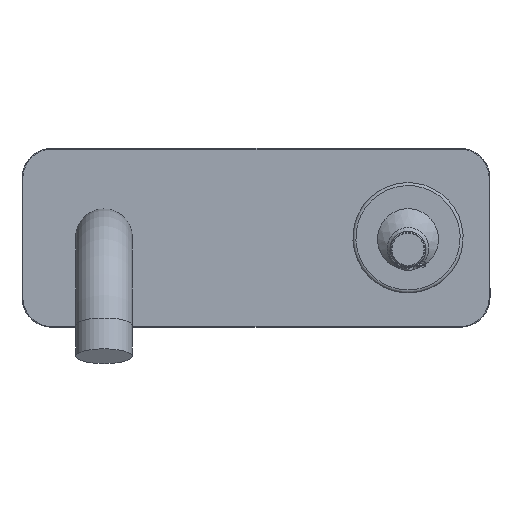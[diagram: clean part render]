
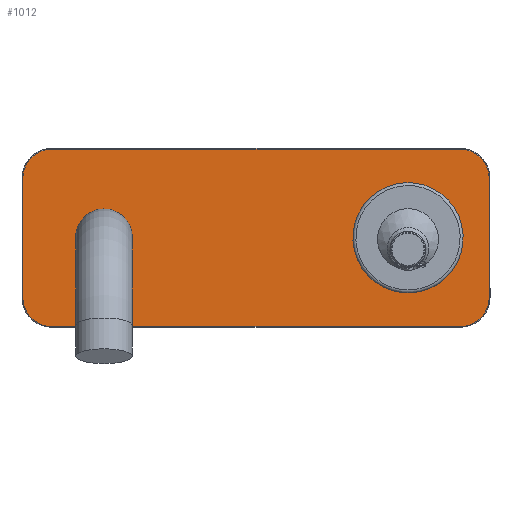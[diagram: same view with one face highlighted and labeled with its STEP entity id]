
A CAD part, top view. The second image highlights one B-rep face of the part: STEP entity #1012.
In plain terms, the highlighted planar face has unit normal (0, 0, 1).
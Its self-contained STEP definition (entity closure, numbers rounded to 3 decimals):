
#15=FACE_BOUND('',#297,.T.);
#16=FACE_BOUND('',#298,.T.);
#35=LINE('',#1671,#70);
#37=LINE('',#1683,#72);
#39=LINE('',#1695,#74);
#41=LINE('',#1704,#76);
#70=VECTOR('',#1197,10.);
#72=VECTOR('',#1211,10.);
#74=VECTOR('',#1225,10.);
#76=VECTOR('',#1237,10.);
#127=PLANE('',#1135);
#231=FACE_OUTER_BOUND('',#296,.T.);
#296=EDGE_LOOP('',(#849,#850,#851,#852,#853,#854,#855,#856));
#297=EDGE_LOOP('',(#857));
#298=EDGE_LOOP('',(#858,#859));
#305=CIRCLE('',#1041,9.5);
#314=CIRCLE('',#1054,9.75);
#320=CIRCLE('',#1062,9.75);
#324=CIRCLE('',#1068,9.75);
#328=CIRCLE('',#1074,9.75);
#360=CIRCLE('',#1133,18.5);
#361=CIRCLE('',#1134,18.5);
#367=VERTEX_POINT('',#1629);
#379=VERTEX_POINT('',#1659);
#380=VERTEX_POINT('',#1661);
#382=VERTEX_POINT('',#1667);
#384=VERTEX_POINT('',#1673);
#386=VERTEX_POINT('',#1679);
#388=VERTEX_POINT('',#1685);
#390=VERTEX_POINT('',#1691);
#392=VERTEX_POINT('',#1697);
#441=VERTEX_POINT('',#2800);
#442=VERTEX_POINT('',#2801);
#452=EDGE_CURVE('',#367,#367,#305,.T.);
#466=EDGE_CURVE('',#379,#380,#314,.T.);
#471=EDGE_CURVE('',#380,#382,#35,.T.);
#474=EDGE_CURVE('',#382,#384,#320,.T.);
#477=EDGE_CURVE('',#384,#386,#37,.T.);
#480=EDGE_CURVE('',#386,#388,#324,.T.);
#483=EDGE_CURVE('',#388,#390,#39,.T.);
#486=EDGE_CURVE('',#390,#392,#328,.T.);
#488=EDGE_CURVE('',#392,#379,#41,.T.);
#579=EDGE_CURVE('',#441,#442,#360,.T.);
#580=EDGE_CURVE('',#442,#441,#361,.T.);
#849=ORIENTED_EDGE('',*,*,#466,.F.);
#850=ORIENTED_EDGE('',*,*,#488,.F.);
#851=ORIENTED_EDGE('',*,*,#486,.F.);
#852=ORIENTED_EDGE('',*,*,#483,.F.);
#853=ORIENTED_EDGE('',*,*,#480,.F.);
#854=ORIENTED_EDGE('',*,*,#477,.F.);
#855=ORIENTED_EDGE('',*,*,#474,.F.);
#856=ORIENTED_EDGE('',*,*,#471,.F.);
#857=ORIENTED_EDGE('',*,*,#452,.T.);
#858=ORIENTED_EDGE('',*,*,#579,.T.);
#859=ORIENTED_EDGE('',*,*,#580,.T.);
#1012=ADVANCED_FACE('',(#231,#15,#16),#127,.T.);
#1041=AXIS2_PLACEMENT_3D('',#1631,#1155,#1156);
#1054=AXIS2_PLACEMENT_3D('',#1662,#1186,#1187);
#1062=AXIS2_PLACEMENT_3D('',#1677,#1204,#1205);
#1068=AXIS2_PLACEMENT_3D('',#1689,#1218,#1219);
#1074=AXIS2_PLACEMENT_3D('',#1701,#1232,#1233);
#1133=AXIS2_PLACEMENT_3D('',#2802,#1372,#1373);
#1134=AXIS2_PLACEMENT_3D('',#2803,#1374,#1375);
#1135=AXIS2_PLACEMENT_3D('',#2805,#1377,#1378);
#1155=DIRECTION('center_axis',(0.,0.,
-1.));
#1156=DIRECTION('ref_axis',(1.,0.,0.));
#1186=DIRECTION('center_axis',(0.,0.,
-1.));
#1187=DIRECTION('ref_axis',(0.707,0.707,0.));
#1197=DIRECTION('',(0.,-1.,0.));
#1204=DIRECTION('center_axis',(0.,0.,
-1.));
#1205=DIRECTION('ref_axis',(0.707,-0.707,0.));
#1211=DIRECTION('',(-1.,0.,0.));
#1218=DIRECTION('center_axis',(0.,0.,
-1.));
#1219=DIRECTION('ref_axis',(-0.707,-0.707,0.));
#1225=DIRECTION('',(0.,1.,0.));
#1232=DIRECTION('center_axis',(0.,0.,
-1.));
#1233=DIRECTION('ref_axis',(-0.707,0.707,0.));
#1237=DIRECTION('',(1.,0.,0.));
#1372=DIRECTION('center_axis',(0.,0.,
-1.));
#1373=DIRECTION('ref_axis',(0.597,0.802,0.));
#1374=DIRECTION('center_axis',(0.,0.,
-1.));
#1375=DIRECTION('ref_axis',(0.597,0.802,0.));
#1377=DIRECTION('center_axis',(0.,0.,
1.));
#1378=DIRECTION('ref_axis',(1.,-0.008,0.));
#1629=CARTESIAN_POINT('',(-60.5,0.,3.));
#1631=CARTESIAN_POINT('Origin',(-51.,0.,
3.));
#1659=CARTESIAN_POINT('',(68.5,29.75,3.));
#1661=CARTESIAN_POINT('',(78.25,20.,3.));
#1662=CARTESIAN_POINT('Origin',(68.5,20.,3.));
#1667=CARTESIAN_POINT('',(78.25,-20.,3.));
#1671=CARTESIAN_POINT('',(78.25,-15.,3.));
#1673=CARTESIAN_POINT('',(68.5,-29.75,3.));
#1677=CARTESIAN_POINT('Origin',(68.5,-20.,3.));
#1679=CARTESIAN_POINT('',(-68.5,-29.75,3.));
#1683=CARTESIAN_POINT('',(-39.25,-29.75,3.));
#1685=CARTESIAN_POINT('',(-78.25,-20.,3.));
#1689=CARTESIAN_POINT('Origin',(-68.5,-20.,3.));
#1691=CARTESIAN_POINT('',(-78.25,20.,3.));
#1695=CARTESIAN_POINT('',(-78.25,15.,3.));
#1697=CARTESIAN_POINT('',(-68.5,29.75,3.));
#1701=CARTESIAN_POINT('Origin',(-68.5,20.,3.));
#1704=CARTESIAN_POINT('',(39.25,29.75,3.));
#2800=CARTESIAN_POINT('',(62.054,14.835,3.));
#2801=CARTESIAN_POINT('',(39.946,-14.835,3.));
#2802=CARTESIAN_POINT('Origin',(51.,0.,3.));
#2803=CARTESIAN_POINT('Origin',(51.,0.,3.));
#2805=CARTESIAN_POINT('Origin',(68.525,23.,3.));
